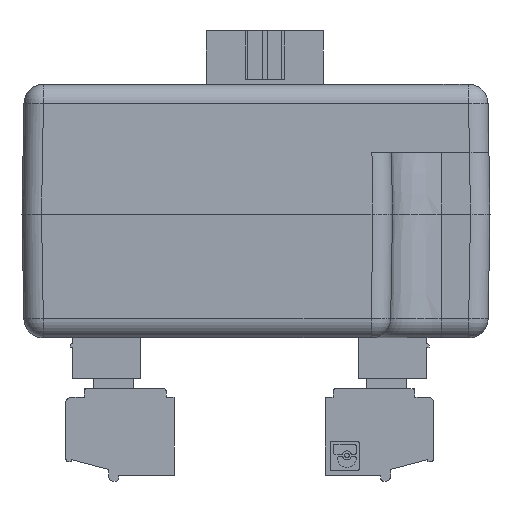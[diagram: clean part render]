
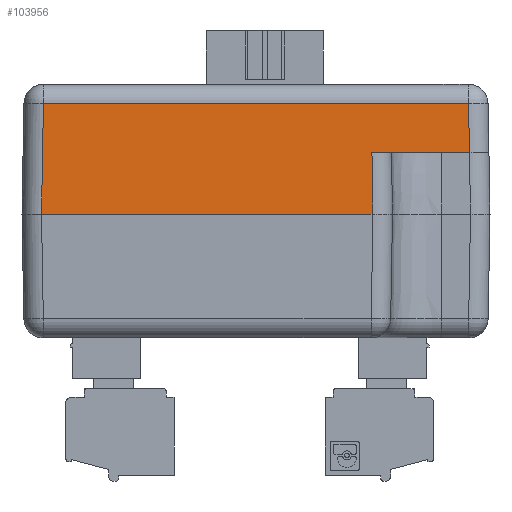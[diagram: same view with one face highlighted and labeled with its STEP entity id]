
A CAD part, left-side view. The second image highlights one B-rep face of the part: STEP entity #103956.
In plain terms, the highlighted planar face has unit normal (-1, 0, 0.018).
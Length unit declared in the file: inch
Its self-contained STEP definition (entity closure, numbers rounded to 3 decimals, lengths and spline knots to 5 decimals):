
#11347 = DIRECTION ( 'NONE',  ( -1., 0., 0.017 ) ) ;
#13768 = ORIENTED_EDGE ( 'NONE', *, *, #89654, .T. ) ;
#26597 = VECTOR ( 'NONE', #103173, 39.37008 ) ;
#32605 = DIRECTION ( 'NONE',  ( 0., 1., 0. ) ) ;
#38190 = ORIENTED_EDGE ( 'NONE', *, *, #50084, .T. ) ;
#38651 = VERTEX_POINT ( 'NONE', #44276 ) ;
#40426 = EDGE_CURVE ( 'NONE', #167931, #114469, #158897, .T. ) ;
#44276 = CARTESIAN_POINT ( 'NONE',  ( -2.12165, 0.09881, -1.51575 ) ) ;
#48017 = VECTOR ( 'NONE', #177348, 39.37008 ) ;
#49331 = CARTESIAN_POINT ( 'NONE',  ( -2.11893, 0.10153, -1.35964 ) ) ;
#50084 = EDGE_CURVE ( 'NONE', #103979, #167869, #79616, .T. ) ;
#51867 = ORIENTED_EDGE ( 'NONE', *, *, #40426, .T. ) ;
#51910 = CARTESIAN_POINT ( 'NONE',  ( -2.12165, 0.56693, -1.51575 ) ) ;
#68534 = VECTOR ( 'NONE', #129768, 39.37008 ) ;
#74093 = CARTESIAN_POINT ( 'NONE',  ( -2.11819, 0.56693, -1.31752 ) ) ;
#79616 = LINE ( 'NONE', #121616, #48017 ) ;
#80219 = DIRECTION ( 'NONE',  ( 0., -1., 0. ) ) ;
#82582 = PLANE ( 'NONE',  #88265 ) ;
#82986 = CARTESIAN_POINT ( 'NONE',  ( -2.12598, 0.09448, -1.76378 ) ) ;
#88265 = AXIS2_PLACEMENT_3D ( 'NONE', #121006, #11347, #124589 ) ;
#88303 = LINE ( 'NONE', #119272, #105002 ) ;
#89654 = EDGE_CURVE ( 'NONE', #114469, #103979, #128888, .T. ) ;
#90290 = VECTOR ( 'NONE', #142575, 39.37008 ) ;
#91635 = EDGE_CURVE ( 'NONE', #151018, #167869, #88303, .T. ) ;
#96295 = FACE_OUTER_BOUND ( 'NONE', #163399, .T. ) ;
#103173 = DIRECTION ( 'NONE',  ( 0.017, 0.017, 1. ) ) ;
#103956 = ADVANCED_FACE ( 'NONE', ( #96295 ), #82582, .T. ) ;
#103979 = VERTEX_POINT ( 'NONE', #180346 ) ;
#105002 = VECTOR ( 'NONE', #32605, 39.37008 ) ;
#111588 = CARTESIAN_POINT ( 'NONE',  ( -2.12598, 1.43308, -1.76378 ) ) ;
#113079 = CARTESIAN_POINT ( 'NONE',  ( -2.11819, -0.29144, -1.31752 ) ) ;
#114469 = VERTEX_POINT ( 'NONE', #113079 ) ;
#116200 = EDGE_CURVE ( 'NONE', #151018, #38651, #133350, .T. ) ;
#117121 = VECTOR ( 'NONE', #80219, 39.37008 ) ;
#118654 = CARTESIAN_POINT ( 'NONE',  ( -2.12572, -0.29896, -1.74867 ) ) ;
#119272 = CARTESIAN_POINT ( 'NONE',  ( -2.12598, 0.56693, -1.76378 ) ) ;
#121006 = CARTESIAN_POINT ( 'NONE',  ( -2.12598, 0.56693, -1.76378 ) ) ;
#121616 = CARTESIAN_POINT ( 'NONE',  ( -2.12572, 1.43282, -1.74867 ) ) ;
#124589 = DIRECTION ( 'NONE',  ( 0., 1., 0. ) ) ;
#128888 = LINE ( 'NONE', #74093, #90290 ) ;
#129768 = DIRECTION ( 'NONE',  ( 0.017, 0.017, 1. ) ) ;
#130305 = ORIENTED_EDGE ( 'NONE', *, *, #116200, .T. ) ;
#133206 = LINE ( 'NONE', #51910, #117121 ) ;
#133350 = LINE ( 'NONE', #49331, #68534 ) ;
#139749 = EDGE_CURVE ( 'NONE', #38651, #167931, #133206, .T. ) ;
#142575 = DIRECTION ( 'NONE',  ( 0., 1., 0. ) ) ;
#143265 = ORIENTED_EDGE ( 'NONE', *, *, #139749, .T. ) ;
#149527 = ORIENTED_EDGE ( 'NONE', *, *, #91635, .F. ) ;
#151018 = VERTEX_POINT ( 'NONE', #82986 ) ;
#158070 = CARTESIAN_POINT ( 'NONE',  ( -2.12165, -0.2949, -1.51575 ) ) ;
#158897 = LINE ( 'NONE', #118654, #26597 ) ;
#163399 = EDGE_LOOP ( 'NONE', ( #51867, #13768, #38190, #149527, #130305, #143265 ) ) ;
#167869 = VERTEX_POINT ( 'NONE', #111588 ) ;
#167931 = VERTEX_POINT ( 'NONE', #158070 ) ;
#177348 = DIRECTION ( 'NONE',  ( -0.017, 0.017, -1. ) ) ;
#180346 = CARTESIAN_POINT ( 'NONE',  ( -2.11819, 1.42529, -1.31752 ) ) ;
